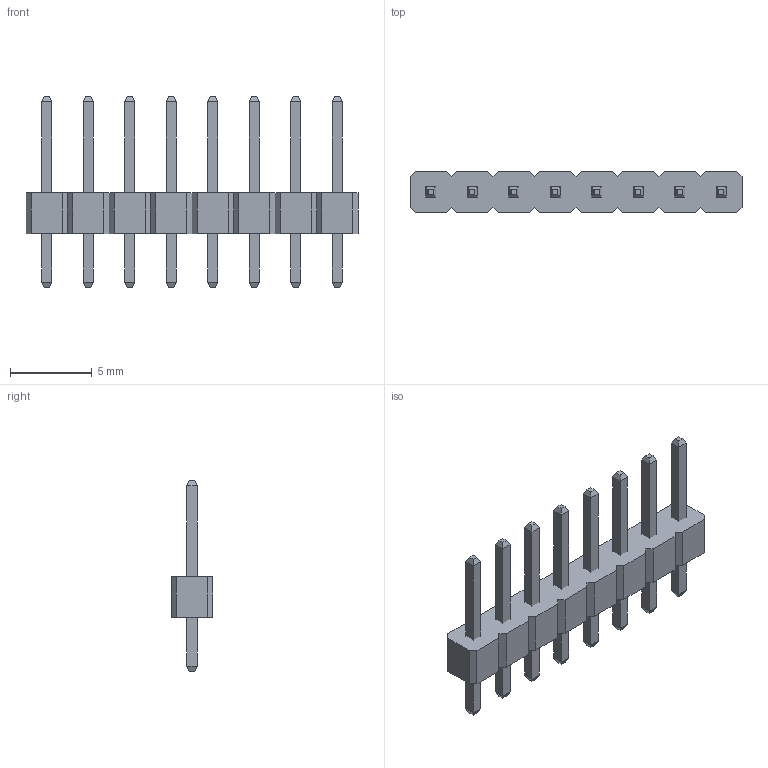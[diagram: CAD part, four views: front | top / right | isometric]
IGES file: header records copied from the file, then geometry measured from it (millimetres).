
Start section: Data from Parasolid IGES Translator 23.1.110, Copyright(c) 2006 Siemens PLM Software. All Rights Reserved.
Global section: file name: 5f3dd550933f190f816bca07.iges; native system: By Siemens PLM Incorporated; preprocessor: XPlus GENERIC/IGES 23.1.110; author: Noname; organization: Noname; date: 20200820.014345; units: metre
Bounding box: 20.32 x 2.54 x 11.68 mm (x, y, z)
Surface area: 466.9 mm2 (no closed solid volume)
Topology: 0 solids, 0 shells, 212 faces, 940 edges, 940 vertices
Faces by surface type: extrusion 212
